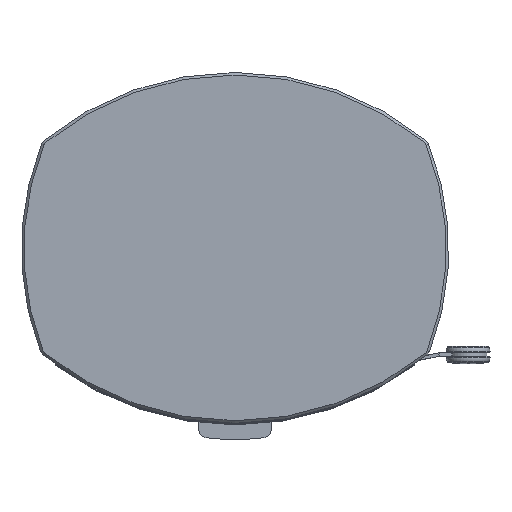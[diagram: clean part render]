
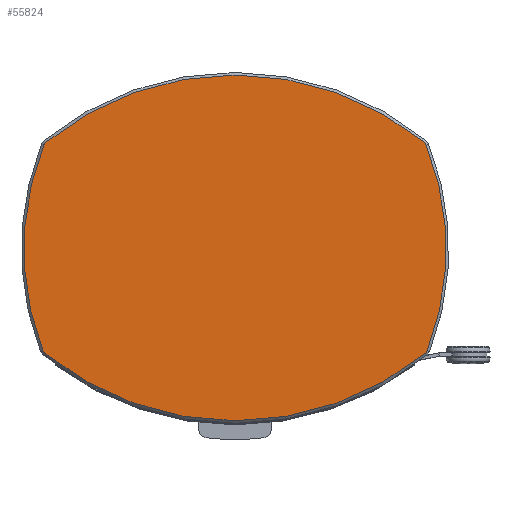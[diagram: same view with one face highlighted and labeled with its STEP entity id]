
A CAD part, top view. The second image highlights one B-rep face of the part: STEP entity #55824.
In plain terms, the highlighted planar face has unit normal (0, 0, 1).
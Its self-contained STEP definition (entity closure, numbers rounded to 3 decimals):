
#4492=FACE_OUTER_BOUND('',#7678,.T.);
#7678=EDGE_LOOP('',(#47711,#47712,#47713,#47714,#47715,#47716,#47717,#47718));
#20385=CIRCLE('',#60485,328.);
#20387=CIRCLE('',#60488,7.);
#20388=CIRCLE('',#60490,354.);
#20389=CIRCLE('',#60492,7.);
#20390=CIRCLE('',#60494,328.);
#20391=CIRCLE('',#60496,7.);
#20393=CIRCLE('',#60499,352.);
#20395=CIRCLE('',#60502,7.);
#25180=VERTEX_POINT('',#94860);
#25183=VERTEX_POINT('',#94865);
#25184=VERTEX_POINT('',#94869);
#25185=VERTEX_POINT('',#94874);
#25186=VERTEX_POINT('',#94878);
#25187=VERTEX_POINT('',#94882);
#25188=VERTEX_POINT('',#94886);
#25189=VERTEX_POINT('',#94890);
#32714=EDGE_CURVE('',#25183,#25180,#20385,.T.);
#32717=EDGE_CURVE('',#25180,#25184,#20387,.T.);
#32719=EDGE_CURVE('',#25184,#25185,#20388,.T.);
#32721=EDGE_CURVE('',#25185,#25186,#20389,.T.);
#32723=EDGE_CURVE('',#25186,#25187,#20390,.T.);
#32725=EDGE_CURVE('',#25187,#25188,#20391,.T.);
#32728=EDGE_CURVE('',#25188,#25189,#20393,.T.);
#32730=EDGE_CURVE('',#25189,#25183,#20395,.T.);
#47711=ORIENTED_EDGE('',*,*,#32714,.F.);
#47712=ORIENTED_EDGE('',*,*,#32730,.F.);
#47713=ORIENTED_EDGE('',*,*,#32728,.F.);
#47714=ORIENTED_EDGE('',*,*,#32725,.F.);
#47715=ORIENTED_EDGE('',*,*,#32723,.F.);
#47716=ORIENTED_EDGE('',*,*,#32721,.F.);
#47717=ORIENTED_EDGE('',*,*,#32719,.F.);
#47718=ORIENTED_EDGE('',*,*,#32717,.F.);
#50181=PLANE('',#60506);
#55824=ADVANCED_FACE('',(#4492),#50181,.F.);
#60485=AXIS2_PLACEMENT_3D('',#94867,#74750,#74751);
#60488=AXIS2_PLACEMENT_3D('',#94872,#74757,#74758);
#60490=AXIS2_PLACEMENT_3D('',#94876,#74762,#74763);
#60492=AXIS2_PLACEMENT_3D('',#94880,#74767,#74768);
#60494=AXIS2_PLACEMENT_3D('',#94884,#74772,#74773);
#60496=AXIS2_PLACEMENT_3D('',#94888,#74777,#74778);
#60499=AXIS2_PLACEMENT_3D('',#94894,#74784,#74785);
#60502=AXIS2_PLACEMENT_3D('',#94897,#74790,#74791);
#60506=AXIS2_PLACEMENT_3D('',#94904,#74801,#74802);
#74750=DIRECTION('center_axis',(0.,0.,
-1.));
#74751=DIRECTION('ref_axis',(0.924,0.382,0.));
#74757=DIRECTION('center_axis',(0.,0.,
-1.));
#74758=DIRECTION('ref_axis',(0.808,-0.589,0.));
#74762=DIRECTION('center_axis',(0.,0.,
-1.));
#74763=DIRECTION('ref_axis',(0.637,-0.771,0.));
#74767=DIRECTION('center_axis',(0.,0.,
-1.));
#74768=DIRECTION('ref_axis',(-0.808,-0.589,0.));
#74772=DIRECTION('center_axis',(0.,0.,
-1.));
#74773=DIRECTION('ref_axis',(-0.929,-0.371,0.));
#74777=DIRECTION('center_axis',(0.,0.,
-1.));
#74778=DIRECTION('ref_axis',(-0.805,0.594,0.));
#74784=DIRECTION('center_axis',(0.,0.,
-1.));
#74785=DIRECTION('ref_axis',(-0.636,0.771,0.));
#74790=DIRECTION('center_axis',(0.,0.,
-1.));
#74791=DIRECTION('ref_axis',(0.805,0.594,0.));
#74801=DIRECTION('center_axis',(0.,0.,
-1.));
#74802=DIRECTION('ref_axis',(-1.,0.,0.));
#94860=CARTESIAN_POINT('',(225.595,-266.644,386.));
#94865=CARTESIAN_POINT('',(224.146,-24.701,386.));
#94867=CARTESIAN_POINT('Origin',(-80.,-147.5,386.));
#94869=CARTESIAN_POINT('',(223.493,-269.53,386.));
#94872=CARTESIAN_POINT('Origin',(219.074,-264.102,386.));
#94874=CARTESIAN_POINT('',(-223.493,-269.53,386.));
#94876=CARTESIAN_POINT('Origin',(0.,5.,386.));
#94878=CARTESIAN_POINT('',(-225.595,-266.644,386.));
#94880=CARTESIAN_POINT('Origin',(-219.074,-264.102,386.));
#94882=CARTESIAN_POINT('',(-224.146,-24.701,386.));
#94884=CARTESIAN_POINT('Origin',(80.,-147.5,386.));
#94886=CARTESIAN_POINT('',(-222.071,-21.891,386.));
#94888=CARTESIAN_POINT('Origin',(-217.655,-27.322,386.));
#94890=CARTESIAN_POINT('',(222.071,-21.891,386.));
#94894=CARTESIAN_POINT('Origin',(0.,-295.,386.));
#94897=CARTESIAN_POINT('Origin',(217.655,-27.322,386.));
#94904=CARTESIAN_POINT('Origin',(0.,-146.161,
386.));
